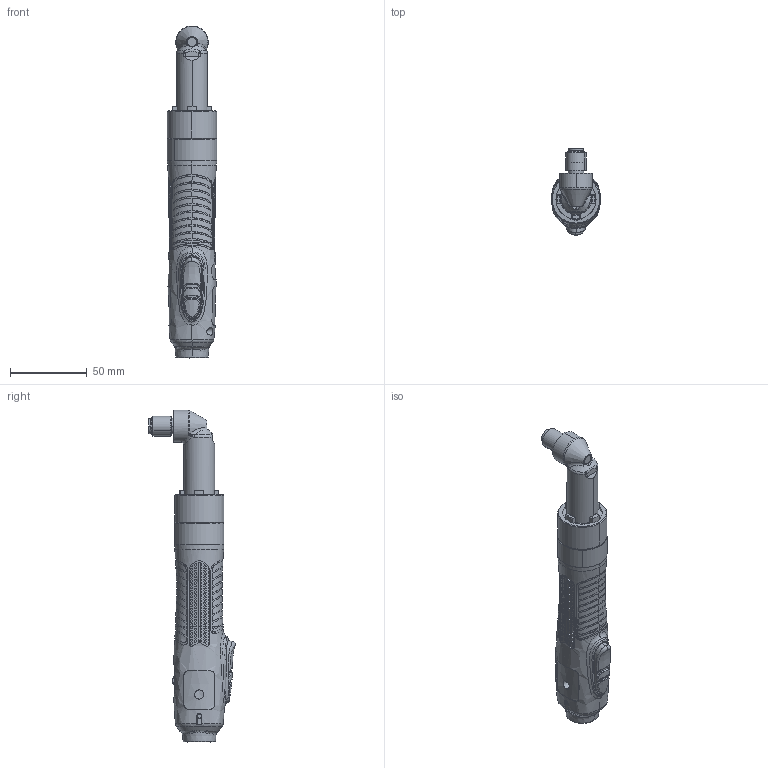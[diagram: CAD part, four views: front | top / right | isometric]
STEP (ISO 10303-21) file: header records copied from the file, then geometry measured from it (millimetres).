
FILE_DESCRIPTION((''),'2;1');
FILE_NAME('MDH22XX-A-E6_3_90DEG_SW0001','2025-04-03T17:34:21',('user'),(''),'CREO PARAMETRIC BY PTC INC, 2021404','CREO PARAMETRIC BY PTC INC, 2021404','');
FILE_SCHEMA(('CONFIG_CONTROL_DESIGN'));
Products named in the file (1): MDH22XX-A-E6_3_90DEG_SW0001
Bounding box: 32.08 x 56.16 x 215.78 mm (x, y, z)
Volume: 57344.6 mm3; surface area: 55262.9 mm2
Topology: 3 solids, 3 shells, 2034 faces, 5292 edges, 3459 vertices
Faces by surface type: plane 1069, cylinder 435, bspline 391, cone 89, torus 35, extrusion 13, sphere 2
Entity records: 102898 total; most frequent: CARTESIAN_POINT 58417, ORIENTED_EDGE 10580, DIRECTION 6908, EDGE_CURVE 5290, VERTEX_POINT 3459, B_SPLINE_CURVE_WITH_KNOTS 2591, AXIS2_PLACEMENT_3D 2553, EDGE_LOOP 2297
